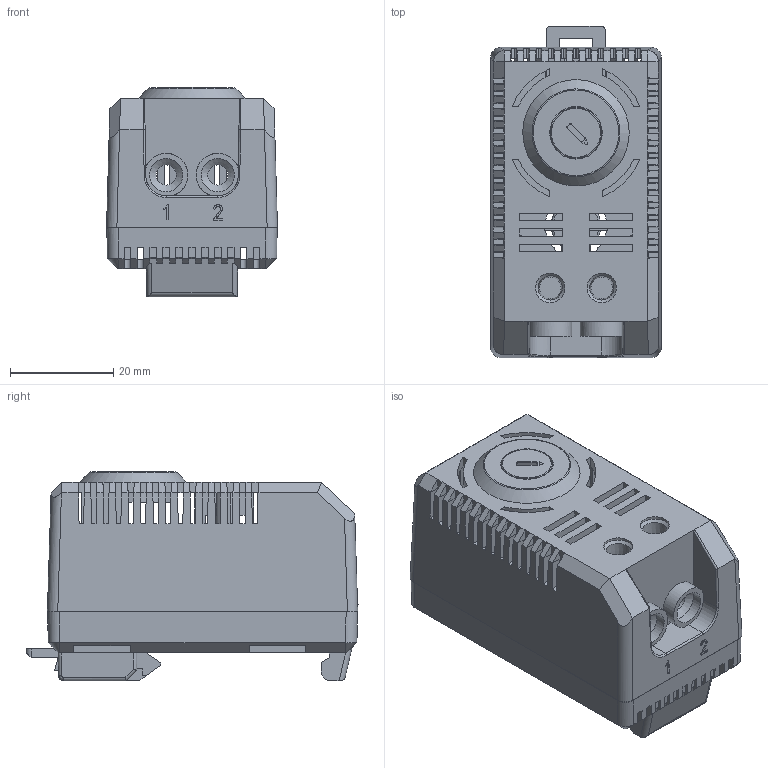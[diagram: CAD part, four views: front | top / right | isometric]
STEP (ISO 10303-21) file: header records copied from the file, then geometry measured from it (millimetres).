
FILE_DESCRIPTION(/* description */ (''),/* implementation_level */ '2;1');
FILE_NAME(/* name */ '2.stp',/* time_stamp */ '2023-02-10T17:04:52+08:00',/* author */ (''),/* organization */ (''),/* preprocessor_version */ 'ST-DEVELOPER v16.7',/* originating_system */ 'SIEMENS PLM Software NX 12.0',/* authorisation */ '');
FILE_SCHEMA (('AUTOMOTIVE_DESIGN { 1 0 10303 214 3 1 1 1 }'));
Length unit declared in the file: millimetre
Products named in the file (1): Admi0B04211Due0j
Bounding box: 33.1 x 64.3 x 40.59 mm (x, y, z)
Volume: 18385 mm3; surface area: 26294.2 mm2
Topology: 3 solids, 4 shells, 1032 faces, 3127 edges, 2012 vertices
Faces by surface type: plane 835, cylinder 162, cone 13, bspline 8, torus 7, extrusion 5, sphere 2
Full cylindrical faces by diameter (mm): 2.985 x2, 3.9 x2, 5.7 x2, 6.46 x2, 9.599 x1, 9.8 x1, 10.166 x1, 17.132 x1
Entity records: 34904 total; most frequent: CARTESIAN_POINT 6670, ORIENTED_EDGE 6190, DIRECTION 5448, EDGE_CURVE 3095, VECTOR 2674, LINE 2669, VERTEX_POINT 2005, AXIS2_PLACEMENT_3D 1387
